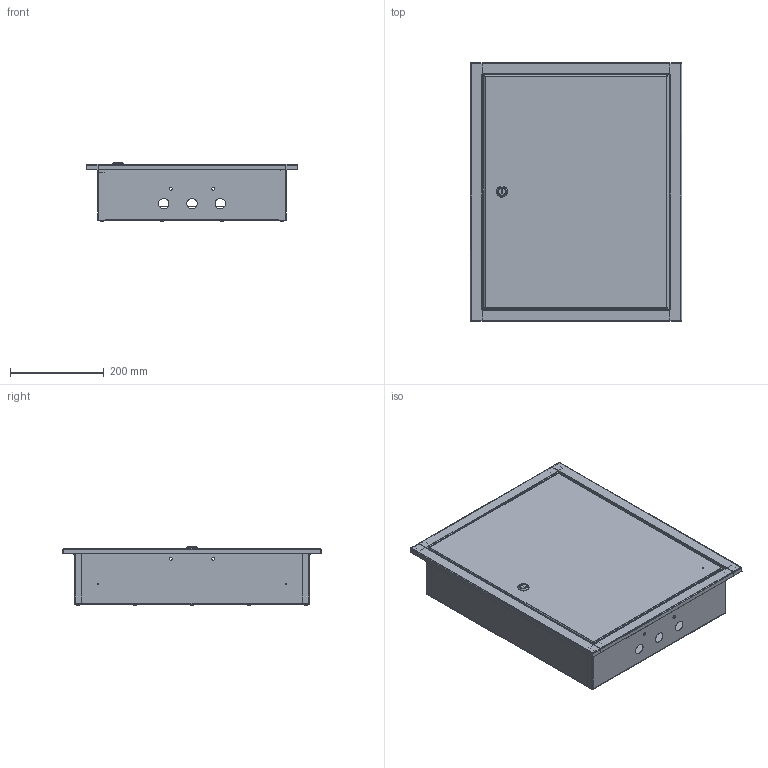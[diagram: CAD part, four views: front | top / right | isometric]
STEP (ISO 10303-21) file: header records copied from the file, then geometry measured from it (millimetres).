
FILE_DESCRIPTION (( 'STEP AP214' ), '1' );
FILE_NAME ('ÙÐÂ-54 IP31 550õ450õ120-ÊÝÀÇ.STEP', '2023-01-24T13:21:06', ( '' ), ( '' ), 'SwSTEP 2.0', 'SolidWorks 2018', '' );
FILE_SCHEMA (( 'AUTOMOTIVE_DESIGN' ));
Length unit declared in the file: millimetre
Products named in the file (1): ÙÐÂ-54 IP31 550õ450õ120-ÊÝÀÇ
Bounding box: 450 x 550 x 125.29 mm (x, y, z)
Surface area: 1544054.7 mm2 (no closed solid volume)
Topology: 0 solids, 50 shells, 269 faces, 993 edges, 715 vertices
Faces by surface type: plane 118, cylinder 103, sphere 28, bspline 12, cone 8
Entity records: 14084 total; most frequent: CARTESIAN_POINT 2917, DIRECTION 1766, ORIENTED_EDGE 1328, EDGE_CURVE 951, VERTEX_POINT 701, AXIS2_PLACEMENT_3D 639, VECTOR 488, LINE 488
